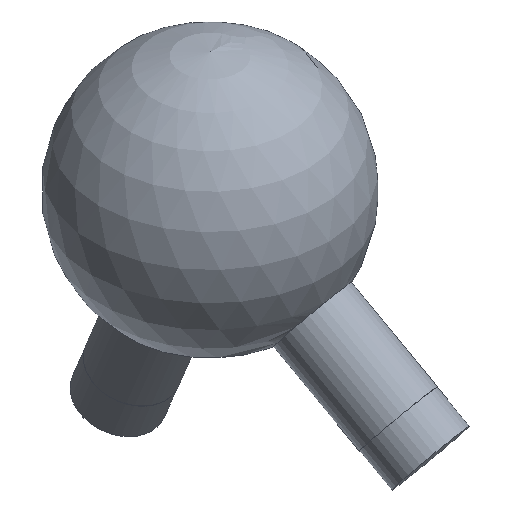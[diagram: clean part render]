
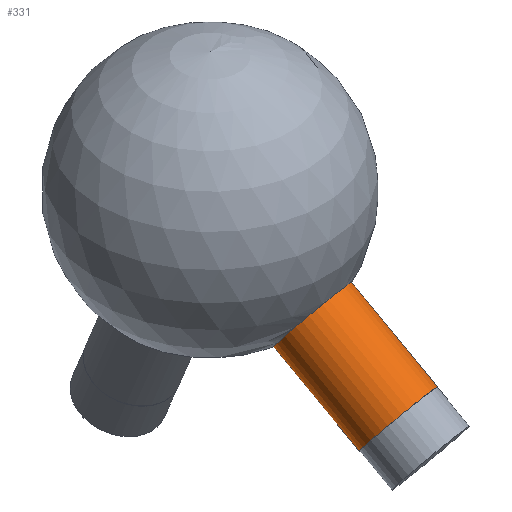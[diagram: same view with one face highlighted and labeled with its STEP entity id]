
A CAD part, isometric view. The second image highlights one B-rep face of the part: STEP entity #331.
In plain terms, the highlighted cylindrical face has radius 6 mm (diameter 12 mm), a full revolution.
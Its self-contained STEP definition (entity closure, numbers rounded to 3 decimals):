
#35 = SPHERICAL_SURFACE('',#36,20.);
#36 = AXIS2_PLACEMENT_3D('',#37,#38,#39);
#37 = CARTESIAN_POINT('',(0.,0.,0.));
#38 = DIRECTION('',(0.,0.,1.));
#39 = DIRECTION('',(1.,0.,-0.));
#186 = EDGE_CURVE('',#187,#187,#189,.T.);
#187 = VERTEX_POINT('',#188);
#188 = CARTESIAN_POINT('',(2.263,-11.156,-16.444
    ));
#189 = SURFACE_CURVE('',#190,(#195,#264),.PCURVE_S1.);
#190 = CIRCLE('',#191,6.);
#191 = AXIS2_PLACEMENT_3D('',#192,#193,#194);
#192 = CARTESIAN_POINT('',(2.263,-14.873,
    -11.734));
#193 = DIRECTION('',(0.119,-0.78,-0.615));
#194 = DIRECTION('',(0.,0.619,-0.785)
  );
#195 = PCURVE('',#35,#196);
#196 = DEFINITIONAL_REPRESENTATION('',(#197),#263);
#197 = B_SPLINE_CURVE_WITH_KNOTS('',8,(#198,#199,#200,#201,#202,#203,
    #204,#205,#206,#207,#208,#209,#210,#211,#212,#213,#214,#215,#216,
    #217,#218,#219,#220,#221,#222,#223,#224,#225,#226,#227,#228,#229,
    #230,#231,#232,#233,#234,#235,#236,#237,#238,#239,#240,#241,#242,
    #243,#244,#245,#246,#247,#248,#249,#250,#251,#252,#253,#254,#255,
    #256,#257,#258,#259,#260,#261,#262),.UNSPECIFIED.,.F.,.F.,(9,7,7,7,7
    ,7,7,7,7,9),(0.,0.393,1.129,1.773,
    2.901,3.746,4.381,5.332,
    5.808,6.283),.UNSPECIFIED.);
#198 = CARTESIAN_POINT('',(4.913,-0.965));
#199 = CARTESIAN_POINT('',(4.938,-0.963));
#200 = CARTESIAN_POINT('',(4.963,-0.96));
#201 = CARTESIAN_POINT('',(4.988,-0.956));
#202 = CARTESIAN_POINT('',(5.012,-0.951));
#203 = CARTESIAN_POINT('',(5.035,-0.945));
#204 = CARTESIAN_POINT('',(5.057,-0.938));
#205 = CARTESIAN_POINT('',(5.078,-0.929));
#206 = CARTESIAN_POINT('',(5.133,-0.904));
#207 = CARTESIAN_POINT('',(5.165,-0.884));
#208 = CARTESIAN_POINT('',(5.191,-0.862));
#209 = CARTESIAN_POINT('',(5.213,-0.838));
#210 = CARTESIAN_POINT('',(5.229,-0.812));
#211 = CARTESIAN_POINT('',(5.241,-0.785));
#212 = CARTESIAN_POINT('',(5.248,-0.758));
#213 = CARTESIAN_POINT('',(5.255,-0.707));
#214 = CARTESIAN_POINT('',(5.255,-0.683));
#215 = CARTESIAN_POINT('',(5.252,-0.658));
#216 = CARTESIAN_POINT('',(5.247,-0.634));
#217 = CARTESIAN_POINT('',(5.24,-0.611));
#218 = CARTESIAN_POINT('',(5.23,-0.588));
#219 = CARTESIAN_POINT('',(5.219,-0.566));
#220 = CARTESIAN_POINT('',(5.182,-0.507));
#221 = CARTESIAN_POINT('',(5.153,-0.472));
#222 = CARTESIAN_POINT('',(5.12,-0.442));
#223 = CARTESIAN_POINT('',(5.083,-0.415));
#224 = CARTESIAN_POINT('',(5.042,-0.393));
#225 = CARTESIAN_POINT('',(5.,-0.377));
#226 = CARTESIAN_POINT('',(4.955,-0.366));
#227 = CARTESIAN_POINT('',(4.877,-0.357));
#228 = CARTESIAN_POINT('',(4.843,-0.356));
#229 = CARTESIAN_POINT('',(4.809,-0.358));
#230 = CARTESIAN_POINT('',(4.775,-0.364));
#231 = CARTESIAN_POINT('',(4.742,-0.373));
#232 = CARTESIAN_POINT('',(4.71,-0.385));
#233 = CARTESIAN_POINT('',(4.68,-0.4));
#234 = CARTESIAN_POINT('',(4.629,-0.431));
#235 = CARTESIAN_POINT('',(4.609,-0.445));
#236 = CARTESIAN_POINT('',(4.589,-0.462));
#237 = CARTESIAN_POINT('',(4.571,-0.479));
#238 = CARTESIAN_POINT('',(4.554,-0.498));
#239 = CARTESIAN_POINT('',(4.538,-0.517));
#240 = CARTESIAN_POINT('',(4.524,-0.538));
#241 = CARTESIAN_POINT('',(4.494,-0.592));
#242 = CARTESIAN_POINT('',(4.48,-0.626));
#243 = CARTESIAN_POINT('',(4.471,-0.661));
#244 = CARTESIAN_POINT('',(4.467,-0.697));
#245 = CARTESIAN_POINT('',(4.469,-0.734));
#246 = CARTESIAN_POINT('',(4.478,-0.769));
#247 = CARTESIAN_POINT('',(4.494,-0.803));
#248 = CARTESIAN_POINT('',(4.531,-0.851));
#249 = CARTESIAN_POINT('',(4.545,-0.866));
#250 = CARTESIAN_POINT('',(4.561,-0.881));
#251 = CARTESIAN_POINT('',(4.579,-0.894));
#252 = CARTESIAN_POINT('',(4.6,-0.907));
#253 = CARTESIAN_POINT('',(4.622,-0.919));
#254 = CARTESIAN_POINT('',(4.647,-0.929));
#255 = CARTESIAN_POINT('',(4.699,-0.947));
#256 = CARTESIAN_POINT('',(4.727,-0.954));
#257 = CARTESIAN_POINT('',(4.756,-0.96));
#258 = CARTESIAN_POINT('',(4.787,-0.964));
#259 = CARTESIAN_POINT('',(4.818,-0.967));
#260 = CARTESIAN_POINT('',(4.85,-0.968));
#261 = CARTESIAN_POINT('',(4.881,-0.968));
#262 = CARTESIAN_POINT('',(4.913,-0.965));
#263 = ( GEOMETRIC_REPRESENTATION_CONTEXT(2) 
PARAMETRIC_REPRESENTATION_CONTEXT() REPRESENTATION_CONTEXT('2D SPACE',''
  ) );
#264 = PCURVE('',#265,#270);
#265 = CYLINDRICAL_SURFACE('',#266,6.);
#266 = AXIS2_PLACEMENT_3D('',#267,#268,#269);
#267 = CARTESIAN_POINT('',(0.,0.,0.));
#268 = DIRECTION('',(0.119,-0.78,-0.615));
#269 = DIRECTION('',(0.,0.619,-0.785)
  );
#270 = DEFINITIONAL_REPRESENTATION('',(#271),#275);
#271 = LINE('',#272,#273);
#272 = CARTESIAN_POINT('',(0.,19.079));
#273 = VECTOR('',#274,1.);
#274 = DIRECTION('',(1.,0.));
#275 = ( GEOMETRIC_REPRESENTATION_CONTEXT(2) 
PARAMETRIC_REPRESENTATION_CONTEXT() REPRESENTATION_CONTEXT('2D SPACE',''
  ) );
#331 = ADVANCED_FACE('',(#332),#265,.T.);
#332 = FACE_BOUND('',#333,.T.);
#333 = EDGE_LOOP('',(#334,#357,#384,#385));
#334 = ORIENTED_EDGE('',*,*,#335,.T.);
#335 = EDGE_CURVE('',#187,#336,#338,.T.);
#336 = VERTEX_POINT('',#337);
#337 = CARTESIAN_POINT('',(4.161,-23.627,-26.284
    ));
#338 = SEAM_CURVE('',#339,(#343,#350),.PCURVE_S1.);
#339 = LINE('',#340,#341);
#340 = CARTESIAN_POINT('',(0.,3.716,
    -4.71));
#341 = VECTOR('',#342,1.);
#342 = DIRECTION('',(0.119,-0.78,-0.615));
#343 = PCURVE('',#265,#344);
#344 = DEFINITIONAL_REPRESENTATION('',(#345),#349);
#345 = LINE('',#346,#347);
#346 = CARTESIAN_POINT('',(6.283,-0.));
#347 = VECTOR('',#348,1.);
#348 = DIRECTION('',(0.,1.));
#349 = ( GEOMETRIC_REPRESENTATION_CONTEXT(2) 
PARAMETRIC_REPRESENTATION_CONTEXT() REPRESENTATION_CONTEXT('2D SPACE',''
  ) );
#350 = PCURVE('',#265,#351);
#351 = DEFINITIONAL_REPRESENTATION('',(#352),#356);
#352 = LINE('',#353,#354);
#353 = CARTESIAN_POINT('',(0.,-0.));
#354 = VECTOR('',#355,1.);
#355 = DIRECTION('',(0.,1.));
#356 = ( GEOMETRIC_REPRESENTATION_CONTEXT(2) 
PARAMETRIC_REPRESENTATION_CONTEXT() REPRESENTATION_CONTEXT('2D SPACE',''
  ) );
#357 = ORIENTED_EDGE('',*,*,#358,.F.);
#358 = EDGE_CURVE('',#336,#336,#359,.T.);
#359 = SURFACE_CURVE('',#360,(#365,#372),.PCURVE_S1.);
#360 = CIRCLE('',#361,6.);
#361 = AXIS2_PLACEMENT_3D('',#362,#363,#364);
#362 = CARTESIAN_POINT('',(4.161,-27.344,-21.573)
  );
#363 = DIRECTION('',(0.119,-0.78,-0.615));
#364 = DIRECTION('',(0.,0.619,-0.785)
  );
#365 = PCURVE('',#265,#366);
#366 = DEFINITIONAL_REPRESENTATION('',(#367),#371);
#367 = LINE('',#368,#369);
#368 = CARTESIAN_POINT('',(0.,35.077));
#369 = VECTOR('',#370,1.);
#370 = DIRECTION('',(1.,0.));
#371 = ( GEOMETRIC_REPRESENTATION_CONTEXT(2) 
PARAMETRIC_REPRESENTATION_CONTEXT() REPRESENTATION_CONTEXT('2D SPACE',''
  ) );
#372 = PCURVE('',#373,#378);
#373 = PLANE('',#374);
#374 = AXIS2_PLACEMENT_3D('',#375,#376,#377);
#375 = CARTESIAN_POINT('',(4.161,-27.344,-21.573)
  );
#376 = DIRECTION('',(0.119,-0.78,-0.615));
#377 = DIRECTION('',(0.,0.619,-0.785)
  );
#378 = DEFINITIONAL_REPRESENTATION('',(#379),#383);
#379 = CIRCLE('',#380,6.);
#380 = AXIS2_PLACEMENT_2D('',#381,#382);
#381 = CARTESIAN_POINT('',(0.,0.));
#382 = DIRECTION('',(1.,0.));
#383 = ( GEOMETRIC_REPRESENTATION_CONTEXT(2) 
PARAMETRIC_REPRESENTATION_CONTEXT() REPRESENTATION_CONTEXT('2D SPACE',''
  ) );
#384 = ORIENTED_EDGE('',*,*,#335,.F.);
#385 = ORIENTED_EDGE('',*,*,#186,.T.);
